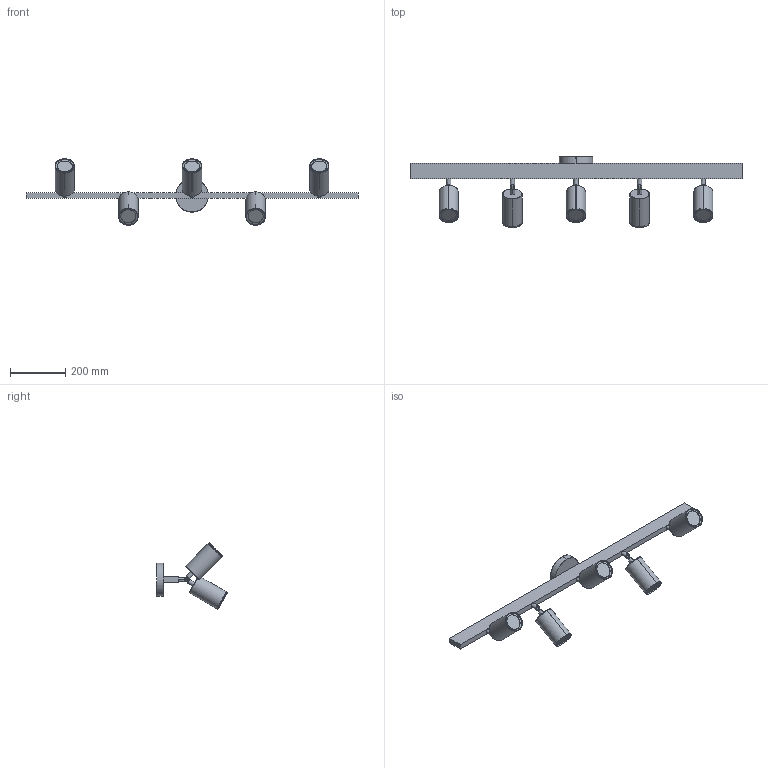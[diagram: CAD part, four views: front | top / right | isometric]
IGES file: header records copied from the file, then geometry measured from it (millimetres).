
Start section: SolidWorks IGES file using analytic representation for surfaces
Global section: file name: F:\燠隴矨\3D\2025-2\Natural Wood Beam Spotlight Light-5heads.IGS,15; native system: HSolidWorks 2022; preprocessor: SolidWorks 2022; author: MyPC; date: 250218.085849; units: millimetre
Bounding box: 1200 x 256.44 x 240.36 mm (x, y, z)
Surface area: 611366.1 mm2 (no closed solid volume)
Topology: 0 solids, 0 shells, 193 faces, 4256 edges, 4256 vertices
Faces by surface type: bspline 119, revolution 74
